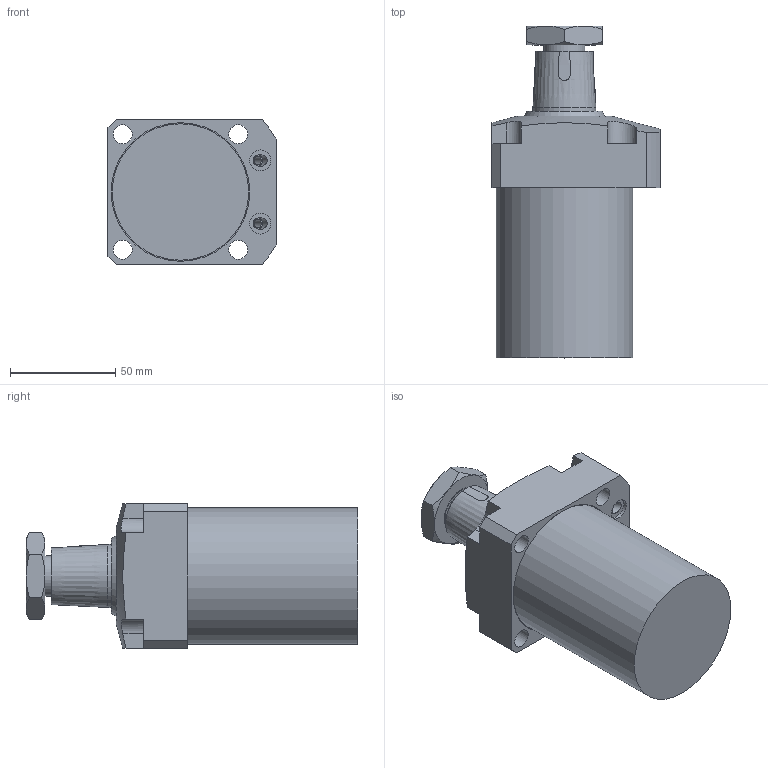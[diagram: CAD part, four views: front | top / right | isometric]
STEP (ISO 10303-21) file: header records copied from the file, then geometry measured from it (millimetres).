
FILE_DESCRIPTION( ( '' ), '1' );
FILE_NAME( 'W:/Catalogue/JF6H/JF6H53-28/JF6H53-28.stp', '2008-05-26T01:00:20', ( '機械事業部産業機器グループ' ), ( '豊和工業株式会社' ), 'XStep 1.0', ' ', ' ' );
FILE_SCHEMA( ( 'CONFIG_CONTROL_DESIGN' ) );
Length unit declared in the file: millimetre
Products named in the file (5): Assem1; 1; 2; 3; 4
Bounding box: 80 x 158 x 69 mm (x, y, z)
Volume: 830049.8 mm3; surface area: 165064.4 mm2
Topology: 9 solids, 13 shells, 300 faces, 677 edges, 433 vertices
Faces by surface type: plane 164, cylinder 72, cone 60, torus 2, sphere 2
Full cylindrical faces by diameter (mm): 2 x2, 4 x4, 5.5 x4, 8 x2, 9 x8, 10 x4, 11 x4, 19.5 x2, 22 x4, 30 x4, 32 x2, 37 x2, 42 x4, 53 x6, 58 x2, 65 x2, 66 x2
Entity records: 4232 total; most frequent: CARTESIAN_POINT 1105, DIRECTION 606, ORIENTED_EDGE 504, AXIS2_PLACEMENT_3D 253, EDGE_CURVE 252, EDGE_LOOP 222, VERTEX_POINT 188, FACE_OUTER_BOUND 172
